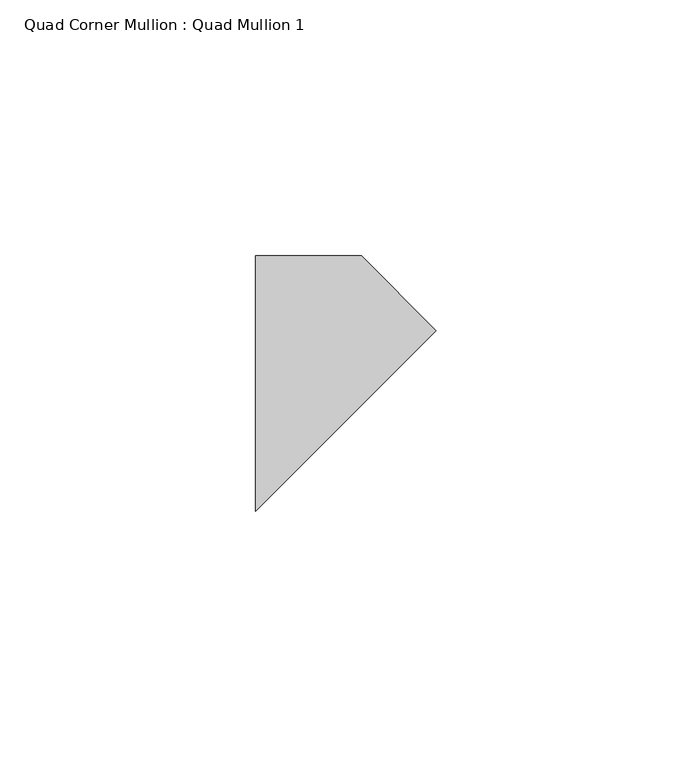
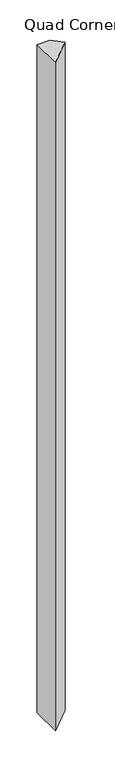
"""IFC4 building model written with IfcOpenShell, lengths in millimetres: member geometry, Quad Corner Mullion : Quad Mullion 1."""

from ifc_helpers import new_model, si_unit, frame, origin, place, context, project, spatial, polyline, outline, extrude, source, transform, mapped, element, save


def quad_corner_mullion_quad_mullion_1_d38ec514(model_context):
    return source(origin(), model_context, "Body", "SweptSolid", [
        extrude(outline(polyline([(25.0, 10.3553391), (-10.3553391, -25.0), (-10.3553391, 25.0), (10.3553391, 25.0), (25.0, 10.3553391)])), frame((0.0, 0.0, -1100.0), z_axis=(0.0, 0.0, 1.0), x_axis=(1.0, 0.0, 0.0)), (0.0, 0.0, 1.0), 1100.0),
    ])


if __name__ == "__main__":
    model = new_model("IFC4")
    model_context = context("Model", 3, world=origin())
    ifc_project = project(units=[si_unit("LENGTHUNIT", "METRE", prefix="MILLI")], contexts=[model_context])
    site = spatial("IfcSite", under=ifc_project)
    building = spatial("IfcBuilding", under=site)
    placement = place(None, origin())
    quad_corner_mullion_quad_mullion_1_shape = quad_corner_mullion_quad_mullion_1_d38ec514(model_context)
    element("IfcMember", 1, ObjectType="Quad Corner Mullion : Quad Mullion 1", at=placement, inside=building, context=model_context, shape_type="MappedRepresentation", body=[
        mapped(quad_corner_mullion_quad_mullion_1_shape, transform((0.0, 0.0, 0.0), x_axis=(1.0, 0.0, 0.0), y_axis=(0.0, 1.0, 0.0), z_axis=(0.0, 0.0, 1.0))),
    ])
    save(model, "model.ifc")
